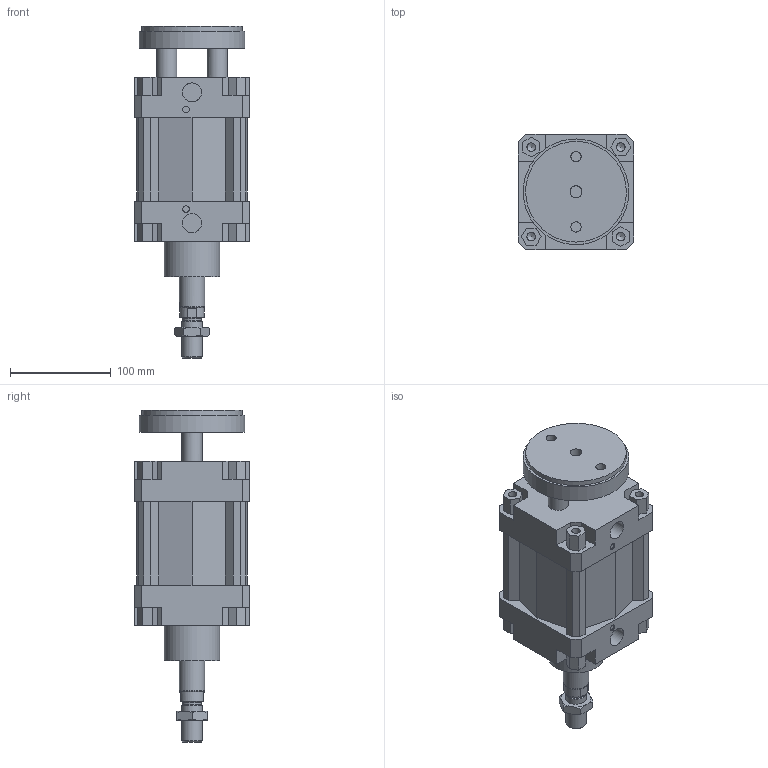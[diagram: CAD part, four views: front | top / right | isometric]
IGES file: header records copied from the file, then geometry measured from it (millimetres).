
Global section: file name: 132#_100_0025_02; native system: Autodesk Inventor 2014; preprocessor: unknown; author: A. Manieri; date: 20161006.163605; units: millimetre
Bounding box: 115 x 115 x 330 mm (x, y, z)
Volume: 1965220 mm3; surface area: 260919.9 mm2
Topology: 3 solids, 3 shells, 220 faces, 589 edges, 397 vertices
Faces by surface type: bspline 220
